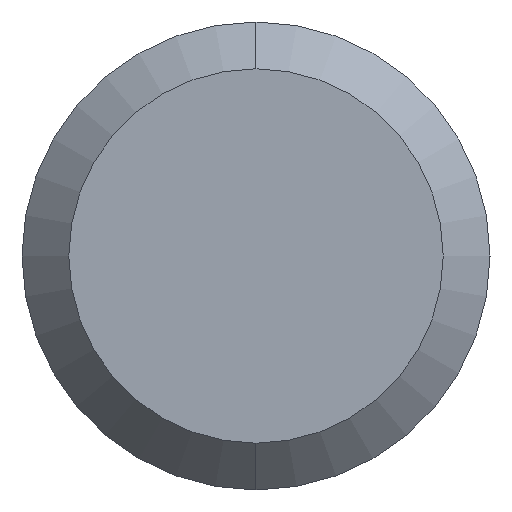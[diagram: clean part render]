
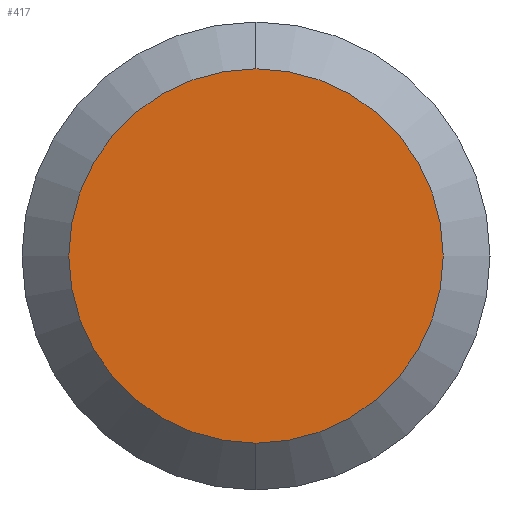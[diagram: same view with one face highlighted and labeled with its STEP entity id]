
A CAD part, left-side view. The second image highlights one B-rep face of the part: STEP entity #417.
In plain terms, the highlighted planar face has unit normal (-1, 0, 0).
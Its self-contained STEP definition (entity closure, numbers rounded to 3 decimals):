
#3 = DIRECTION ( 'NONE',  ( 0., 0., 1. ) ) ;
#15 = AXIS2_PLACEMENT_3D ( 'NONE', #47, #274, #91 ) ;
#23 = CARTESIAN_POINT ( 'NONE',  ( 0., 0., 0. ) ) ;
#26 = AXIS2_PLACEMENT_3D ( 'NONE', #390, #216, #3 ) ;
#47 = CARTESIAN_POINT ( 'NONE',  ( 0., 0., 0. ) ) ;
#73 = EDGE_CURVE ( 'NONE', #176, #350, #171, .T. ) ;
#85 = EDGE_CURVE ( 'NONE', #350, #176, #234, .T. ) ;
#91 = DIRECTION ( 'NONE',  ( 0., 0., 1. ) ) ;
#164 = EDGE_LOOP ( 'NONE', ( #179, #380 ) ) ;
#171 = CIRCLE ( 'NONE', #26, 2.4 ) ;
#176 = VERTEX_POINT ( 'NONE', #367 ) ;
#179 = ORIENTED_EDGE ( 'NONE', *, *, #85, .T. ) ;
#201 = PLANE ( 'NONE',  #224 ) ;
#204 = DIRECTION ( 'NONE',  ( 1., 0., 0. ) ) ;
#216 = DIRECTION ( 'NONE',  ( -1., 0., 0. ) ) ;
#224 = AXIS2_PLACEMENT_3D ( 'NONE', #23, #204, #410 ) ;
#234 = CIRCLE ( 'NONE', #15, 2.4 ) ;
#256 = CARTESIAN_POINT ( 'NONE',  ( 0., 0., -2.4 ) ) ;
#274 = DIRECTION ( 'NONE',  ( -1., 0., 0. ) ) ;
#350 = VERTEX_POINT ( 'NONE', #256 ) ;
#367 = CARTESIAN_POINT ( 'NONE',  ( 0., 0., 2.4 ) ) ;
#368 = FACE_OUTER_BOUND ( 'NONE', #164, .T. ) ;
#380 = ORIENTED_EDGE ( 'NONE', *, *, #73, .T. ) ;
#390 = CARTESIAN_POINT ( 'NONE',  ( 0., 0., 0. ) ) ;
#410 = DIRECTION ( 'NONE',  ( 0., 0., -1. ) ) ;
#417 = ADVANCED_FACE ( 'NONE', ( #368 ), #201, .F. ) ;
